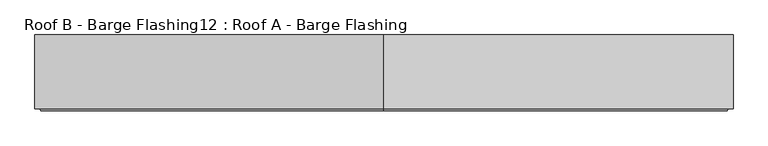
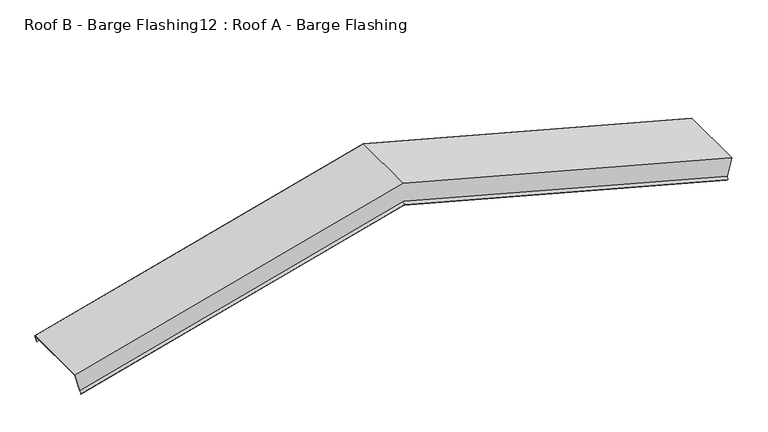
"""IFC4 building model written with IfcOpenShell, lengths in millimetres: proxy geometry, Roof B - Barge Flashing12 : Roof A - Barge Flashing."""

from ifc_helpers import new_model, si_unit, origin, place, context, project, spatial, faceted_brep, source, transform, mapped, element, save


def roof_b_barge_flashing12_roof_a_barge_flashing_be4ac543(model_context):
    return source(origin(), model_context, "Body", "Brep", [
        faceted_brep([(-20519.8176892, -33871.102608, 3421.0347541), (-20531.8527748, -33871.102608, 3376.1192032), (-20531.8527748, -33870.102608, 3376.1192032), (-20519.5588701, -33870.102608, 3422.00068), (-20519.5588701, -34320.2372219, 3422.00068), (-20550.2936317, -34320.2372219, 3307.2969881), (-20553.9538858, -34334.3793575, 3293.6367341), (-20556.6990763, -34323.7727558, 3283.3915435), (-20556.5160636, -34323.065649, 3284.0745562), (-20553.9538858, -34332.9651439, 3293.6367341), (-20550.4008381, -34319.2372219, 3306.8968885), (-20519.8176892, -34319.2372219, 3421.0347541), (-22651.9929037, -33871.102608, 3992.349381), (-24784.1681182, -33871.102608, 3421.0347541), (-24772.1330326, -33871.102608, 3376.1192032), (-22651.9929037, -33871.102608, 3944.2090386), (-22651.9929037, -33870.102608, 3944.2090386), (-24772.1330326, -33870.102608, 3376.1192032), (-24784.4269372, -33870.102608, 3422.00068), (-22651.9929037, -33870.102608, 3993.3846572), (-22651.9929037, -34320.2372219, 3993.3846572), (-24784.4269372, -34320.2372219, 3422.00068), (-24753.6921756, -34320.2372219, 3307.2969881), (-22651.9929037, -34320.2372219, 3870.4456108), (-22651.9929037, -34334.3793575, 3855.8045946), (-22651.9929037, -34323.7727558, 3844.8238325), (-22651.9929037, -34323.065649, 3845.5558833), (-22651.9929037, -34332.9651439, 3855.8045946), (-22651.9929037, -34319.2372219, 3870.0167853), (-24753.5849693, -34319.2372219, 3306.8968885), (-24784.1681182, -34319.2372219, 3421.0347541), (-22651.9929037, -34319.2372219, 3992.349381), (-24750.0319216, -34332.9651439, 3293.6367341), (-24747.4697438, -34323.065649, 3284.0745562), (-24747.2867311, -34323.7727558, 3283.3915435), (-24750.0319216, -34334.3793575, 3293.6367341)], [[[0, 1, 2, 3, 4, 5, 6, 7, 8, 9, 10, 11]], [[1, 0, 12, 13, 14, 15]], [[2, 1, 15, 16]], [[3, 2, 16, 17, 18, 19]], [[4, 3, 19, 20]], [[5, 4, 20, 21, 22, 23]], [[6, 5, 23, 24]], [[7, 6, 24, 25]], [[8, 7, 25, 26]], [[9, 8, 26, 27]], [[10, 9, 27, 28]], [[11, 10, 28, 29, 30, 31]], [[0, 11, 31, 12]], [[13, 30, 29, 32, 33, 34, 35, 22, 21, 18, 17, 14]], [[16, 15, 14, 17]], [[20, 19, 18, 21]], [[24, 23, 22, 35]], [[25, 24, 35, 34]], [[26, 25, 34, 33]], [[27, 26, 33, 32]], [[28, 27, 32, 29]], [[12, 31, 30, 13]]]),
    ])


if __name__ == "__main__":
    model = new_model("IFC4")
    model_context = context("Model", 3, world=origin())
    ifc_project = project(units=[si_unit("LENGTHUNIT", "METRE", prefix="MILLI")], contexts=[model_context])
    site = spatial("IfcSite", under=ifc_project)
    building = spatial("IfcBuilding", under=site)
    placement = place(None, origin())
    roof_b_barge_flashing12_roof_a_barge_flashing_shape = roof_b_barge_flashing12_roof_a_barge_flashing_be4ac543(model_context)
    element("IfcBuildingElementProxy", 1, Name="Roof B - Barge Flashing12 : Roof A - Barge Flashing", ObjectType="Roof B - Barge Flashing12 : Roof A - Barge Flashing", at=placement, inside=building, context=model_context, shape_type="MappedRepresentation", body=[
        mapped(roof_b_barge_flashing12_roof_a_barge_flashing_shape, transform((0.0, 0.0, 0.0), x_axis=(1.0, 0.0, 0.0), y_axis=(0.0, 1.0, 0.0), z_axis=(0.0, 0.0, 1.0))),
    ])
    save(model, "model.ifc")
